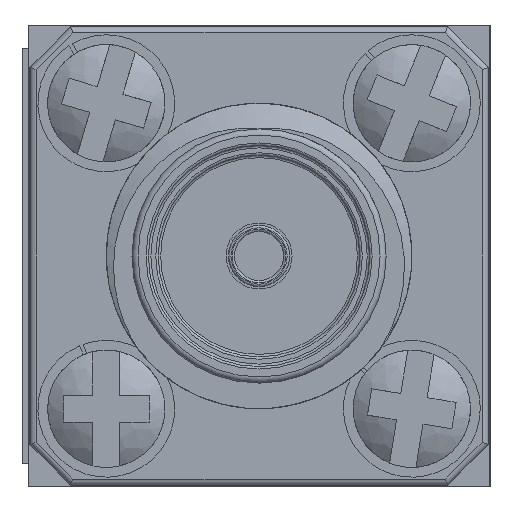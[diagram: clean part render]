
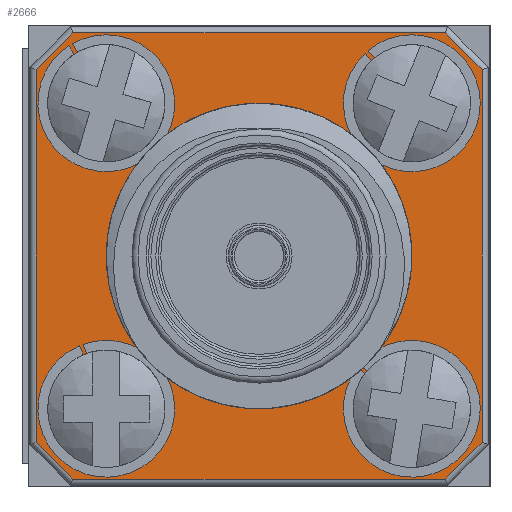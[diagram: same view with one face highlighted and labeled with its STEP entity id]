
A CAD part, left-side view. The second image highlights one B-rep face of the part: STEP entity #2666.
In plain terms, the highlighted planar face has unit normal (-1, 0, 0).
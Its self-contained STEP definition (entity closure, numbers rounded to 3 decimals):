
#205 = FACE_OUTER_BOUND ( 'NONE', #26422, .T. ) ;
#340 = CARTESIAN_POINT ( 'NONE',  ( 951.29, 990.786, 1050.638 ) ) ;
#348 = EDGE_CURVE ( 'NONE', #10069, #10069, #9043, .T. ) ;
#763 = VECTOR ( 'NONE', #17889, 1000. ) ;
#1539 = CARTESIAN_POINT ( 'NONE',  ( 951.29, 991.481, 1041.849 ) ) ;
#1766 = LINE ( 'NONE', #12658, #15620 ) ;
#1864 = EDGE_CURVE ( 'NONE', #25163, #10029, #22992, .T. ) ;
#2024 = LINE ( 'NONE', #16873, #15702 ) ;
#2112 = DIRECTION ( 'NONE',  ( 0., -0.707, 0.707 ) ) ;
#2117 = DIRECTION ( 'NONE',  ( 0., -1., 0. ) ) ;
#2158 = DIRECTION ( 'NONE',  ( 0., 0.707, 0.707 ) ) ;
#2214 = CARTESIAN_POINT ( 'NONE',  ( 951.29, 994.656, 1043.361 ) ) ;
#2559 = VERTEX_POINT ( 'NONE', #340 ) ;
#2666 = ADVANCED_FACE ( 'NONE', ( #6383, #14930, #25336, #19296, #205, #13295 ), #23538, .F. ) ;
#2868 = CARTESIAN_POINT ( 'NONE',  ( 951.29, 991.481, 1042.827 ) ) ;
#3253 = CARTESIAN_POINT ( 'NONE',  ( 951.29, 997.831, 1042.827 ) ) ;
#3775 = CARTESIAN_POINT ( 'NONE',  ( 951.29, 990.021, 1042.133 ) ) ;
#4133 = VERTEX_POINT ( 'NONE', #2214 ) ;
#4543 = EDGE_CURVE ( 'NONE', #26543, #26543, #20290, .T. ) ;
#4554 = ORIENTED_EDGE ( 'NONE', *, *, #8468, .T. ) ;
#4625 = CARTESIAN_POINT ( 'NONE',  ( 951.29, 999.292, 1049.872 ) ) ;
#4724 = ORIENTED_EDGE ( 'NONE', *, *, #348, .T. ) ;
#5371 = VECTOR ( 'NONE', #2112, 1000. ) ;
#5430 = EDGE_LOOP ( 'NONE', ( #8072 ) ) ;
#5446 = EDGE_CURVE ( 'NONE', #9550, #9550, #17217, .T. ) ;
#6109 = VECTOR ( 'NONE', #25312, 1000. ) ;
#6383 = FACE_BOUND ( 'NONE', #27144, .T. ) ;
#6606 = VERTEX_POINT ( 'NONE', #3775 ) ;
#6614 = CARTESIAN_POINT ( 'NONE',  ( 951.29, 999.292, 1042.133 ) ) ;
#7315 = CIRCLE ( 'NONE', #22665, 0.978 ) ;
#7450 = CARTESIAN_POINT ( 'NONE',  ( 951.29, 991.481, 1048.199 ) ) ;
#7515 = ORIENTED_EDGE ( 'NONE', *, *, #15502, .T. ) ;
#7632 = DIRECTION ( 'NONE',  ( 0., 0., -1. ) ) ;
#7689 = EDGE_CURVE ( 'NONE', #14959, #25163, #19308, .T. ) ;
#7994 = ORIENTED_EDGE ( 'NONE', *, *, #1864, .T. ) ;
#8072 = ORIENTED_EDGE ( 'NONE', *, *, #13543, .F. ) ;
#8455 = DIRECTION ( 'NONE',  ( 1., 0., 0. ) ) ;
#8468 = EDGE_CURVE ( 'NONE', #16736, #19900, #1766, .T. ) ;
#8507 = DIRECTION ( 'NONE',  ( 0., 0.707, -0.707 ) ) ;
#8590 = CIRCLE ( 'NONE', #9905, 2.642 ) ;
#8833 = EDGE_CURVE ( 'NONE', #2559, #16736, #25045, .T. ) ;
#9043 = CIRCLE ( 'NONE', #23939, 0.978 ) ;
#9550 = VERTEX_POINT ( 'NONE', #7450 ) ;
#9660 = CARTESIAN_POINT ( 'NONE',  ( 951.29, 990.021, 1054.687 ) ) ;
#9905 = AXIS2_PLACEMENT_3D ( 'NONE', #26565, #18184, #12057 ) ;
#10029 = VERTEX_POINT ( 'NONE', #26310 ) ;
#10069 = VERTEX_POINT ( 'NONE', #1539 ) ;
#10085 = EDGE_LOOP ( 'NONE', ( #12651 ) ) ;
#10247 = VERTEX_POINT ( 'NONE', #17373 ) ;
#10349 = CARTESIAN_POINT ( 'NONE',  ( 951.29, 997.831, 1041.849 ) ) ;
#11167 = DIRECTION ( 'NONE',  ( 1., 0., 0. ) ) ;
#11996 = EDGE_CURVE ( 'NONE', #6606, #10247, #16604, .T. ) ;
#12007 = AXIS2_PLACEMENT_3D ( 'NONE', #17602, #17468, #15285 ) ;
#12057 = DIRECTION ( 'NONE',  ( 0., 0., -1. ) ) ;
#12225 = EDGE_CURVE ( 'NONE', #14887, #14887, #7315, .T. ) ;
#12454 = CARTESIAN_POINT ( 'NONE',  ( 951.29, 999.292, 1054.687 ) ) ;
#12602 = CARTESIAN_POINT ( 'NONE',  ( 951.29, 994.656, 1041.367 ) ) ;
#12651 = ORIENTED_EDGE ( 'NONE', *, *, #12225, .T. ) ;
#12658 = CARTESIAN_POINT ( 'NONE',  ( 951.29, 994.566, 1054.597 ) ) ;
#13219 = ORIENTED_EDGE ( 'NONE', *, *, #11996, .T. ) ;
#13295 = FACE_BOUND ( 'NONE', #5430, .T. ) ;
#13543 = EDGE_CURVE ( 'NONE', #4133, #4133, #8590, .T. ) ;
#14005 = DIRECTION ( 'NONE',  ( 0., 1., 0. ) ) ;
#14508 = LINE ( 'NONE', #18742, #5371 ) ;
#14859 = DIRECTION ( 'NONE',  ( 0., 0., -1. ) ) ;
#14887 = VERTEX_POINT ( 'NONE', #10349 ) ;
#14930 = FACE_BOUND ( 'NONE', #22156, .T. ) ;
#14959 = VERTEX_POINT ( 'NONE', #6614 ) ;
#15177 = CARTESIAN_POINT ( 'NONE',  ( 951.29, 998.526, 1041.367 ) ) ;
#15285 = DIRECTION ( 'NONE',  ( 0., 0., -1. ) ) ;
#15346 = VECTOR ( 'NONE', #2117, 1000. ) ;
#15477 = VECTOR ( 'NONE', #17393, 1000. ) ;
#15502 = EDGE_CURVE ( 'NONE', #10029, #6606, #14508, .T. ) ;
#15620 = VECTOR ( 'NONE', #8507, 1000. ) ;
#15685 = CARTESIAN_POINT ( 'NONE',  ( 951.29, 998.526, 1050.638 ) ) ;
#15702 = VECTOR ( 'NONE', #2158, 1000. ) ;
#16389 = EDGE_LOOP ( 'NONE', ( #4724 ) ) ;
#16604 = LINE ( 'NONE', #9660, #763 ) ;
#16736 = VERTEX_POINT ( 'NONE', #15685 ) ;
#16834 = DIRECTION ( 'NONE',  ( 0., 0., -1. ) ) ;
#16873 = CARTESIAN_POINT ( 'NONE',  ( 951.29, 994.746, 1054.597 ) ) ;
#17217 = CIRCLE ( 'NONE', #20704, 0.978 ) ;
#17373 = CARTESIAN_POINT ( 'NONE',  ( 951.29, 990.021, 1049.872 ) ) ;
#17386 = VECTOR ( 'NONE', #14005, 1000. ) ;
#17393 = DIRECTION ( 'NONE',  ( 0., -0.707, -0.707 ) ) ;
#17468 = DIRECTION ( 'NONE',  ( 1., 0., 0. ) ) ;
#17602 = CARTESIAN_POINT ( 'NONE',  ( 951.29, 997.831, 1049.177 ) ) ;
#17889 = DIRECTION ( 'NONE',  ( 0., 0., 1. ) ) ;
#18184 = DIRECTION ( 'NONE',  ( -1., 0., 0. ) ) ;
#18742 = CARTESIAN_POINT ( 'NONE',  ( 951.29, 986.061, 1046.092 ) ) ;
#19001 = LINE ( 'NONE', #12454, #6109 ) ;
#19171 = CARTESIAN_POINT ( 'NONE',  ( 951.29, 1003.251, 1046.092 ) ) ;
#19296 = FACE_BOUND ( 'NONE', #16389, .T. ) ;
#19308 = LINE ( 'NONE', #19171, #15477 ) ;
#19566 = CARTESIAN_POINT ( 'NONE',  ( 951.29, 994.656, 1054.687 ) ) ;
#19846 = ORIENTED_EDGE ( 'NONE', *, *, #5446, .T. ) ;
#19900 = VERTEX_POINT ( 'NONE', #4625 ) ;
#20290 = CIRCLE ( 'NONE', #12007, 0.978 ) ;
#20704 = AXIS2_PLACEMENT_3D ( 'NONE', #25940, #11167, #26216 ) ;
#21804 = DIRECTION ( 'NONE',  ( 1., 0., 0. ) ) ;
#21959 = ORIENTED_EDGE ( 'NONE', *, *, #7689, .T. ) ;
#22156 = EDGE_LOOP ( 'NONE', ( #19846 ) ) ;
#22665 = AXIS2_PLACEMENT_3D ( 'NONE', #3253, #21804, #7632 ) ;
#22847 = AXIS2_PLACEMENT_3D ( 'NONE', #19566, #8455, #16834 ) ;
#22992 = LINE ( 'NONE', #12602, #15346 ) ;
#23266 = ORIENTED_EDGE ( 'NONE', *, *, #23573, .T. ) ;
#23538 = PLANE ( 'NONE',  #22847 ) ;
#23573 = EDGE_CURVE ( 'NONE', #10247, #2559, #2024, .T. ) ;
#23939 = AXIS2_PLACEMENT_3D ( 'NONE', #2868, #25547, #14859 ) ;
#24358 = ORIENTED_EDGE ( 'NONE', *, *, #25092, .T. ) ;
#24394 = CARTESIAN_POINT ( 'NONE',  ( 951.29, 994.656, 1050.638 ) ) ;
#24602 = ORIENTED_EDGE ( 'NONE', *, *, #4543, .T. ) ;
#25045 = LINE ( 'NONE', #24394, #17386 ) ;
#25092 = EDGE_CURVE ( 'NONE', #19900, #14959, #19001, .T. ) ;
#25163 = VERTEX_POINT ( 'NONE', #15177 ) ;
#25312 = DIRECTION ( 'NONE',  ( 0., 0., -1. ) ) ;
#25336 = FACE_BOUND ( 'NONE', #10085, .T. ) ;
#25547 = DIRECTION ( 'NONE',  ( 1., 0., 0. ) ) ;
#25595 = ORIENTED_EDGE ( 'NONE', *, *, #8833, .T. ) ;
#25940 = CARTESIAN_POINT ( 'NONE',  ( 951.29, 991.481, 1049.177 ) ) ;
#26216 = DIRECTION ( 'NONE',  ( 0., 0., -1. ) ) ;
#26280 = CARTESIAN_POINT ( 'NONE',  ( 951.29, 997.831, 1048.199 ) ) ;
#26310 = CARTESIAN_POINT ( 'NONE',  ( 951.29, 990.786, 1041.367 ) ) ;
#26422 = EDGE_LOOP ( 'NONE', ( #7994, #7515, #13219, #23266, #25595, #4554, #24358, #21959 ) ) ;
#26543 = VERTEX_POINT ( 'NONE', #26280 ) ;
#26565 = CARTESIAN_POINT ( 'NONE',  ( 951.29, 994.656, 1046.002 ) ) ;
#27144 = EDGE_LOOP ( 'NONE', ( #24602 ) ) ;
